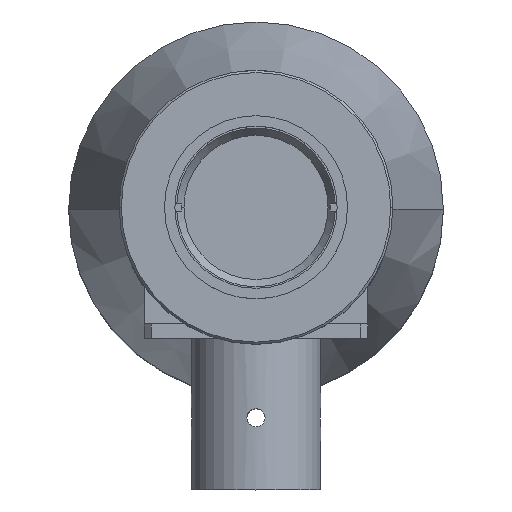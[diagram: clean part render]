
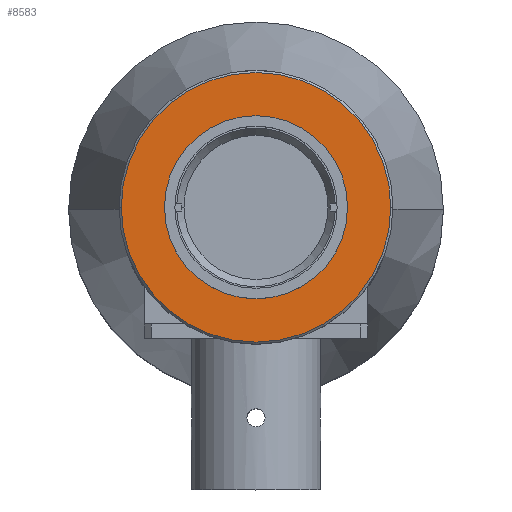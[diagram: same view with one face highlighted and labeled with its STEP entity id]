
A CAD part, top view. The second image highlights one B-rep face of the part: STEP entity #8583.
In plain terms, the highlighted planar face has unit normal (0, 0, 1).
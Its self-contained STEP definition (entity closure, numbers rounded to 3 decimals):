
#200 = CARTESIAN_POINT ( 'NONE',  ( 0., 0., 217.55 ) ) ;
#212 = AXIS2_PLACEMENT_3D ( 'NONE', #10443, #14528, #14653 ) ;
#1873 = VERTEX_POINT ( 'NONE', #9672 ) ;
#2020 = PLANE ( 'NONE',  #13624 ) ;
#2094 = EDGE_CURVE ( 'NONE', #3166, #1873, #7822, .T. ) ;
#2133 = DIRECTION ( 'NONE',  ( 0., 0., 1. ) ) ;
#2189 = CARTESIAN_POINT ( 'NONE',  ( 0., 0., 217.55 ) ) ;
#2508 = ORIENTED_EDGE ( 'NONE', *, *, #16162, .F. ) ;
#3166 = VERTEX_POINT ( 'NONE', #8816 ) ;
#3355 = EDGE_CURVE ( 'NONE', #12149, #10233, #3728, .T. ) ;
#3728 = CIRCLE ( 'NONE', #9374, 12.2 ) ;
#4212 = ORIENTED_EDGE ( 'NONE', *, *, #12743, .T. ) ;
#5308 = AXIS2_PLACEMENT_3D ( 'NONE', #200, #5530, #5659 ) ;
#5530 = DIRECTION ( 'NONE',  ( 0., 0., 1. ) ) ;
#5659 = DIRECTION ( 'NONE',  ( 1., 0., 0. ) ) ;
#6621 = EDGE_LOOP ( 'NONE', ( #8190, #2508 ) ) ;
#7822 = CIRCLE ( 'NONE', #5308, 18.7 ) ;
#7897 = CARTESIAN_POINT ( 'NONE',  ( -12.2, 0., 217.55 ) ) ;
#8187 = CARTESIAN_POINT ( 'NONE',  ( 0., 0., 217.55 ) ) ;
#8190 = ORIENTED_EDGE ( 'NONE', *, *, #3355, .F. ) ;
#8254 = DIRECTION ( 'NONE',  ( 1., 0., 0. ) ) ;
#8583 = ADVANCED_FACE ( 'NONE', ( #15358, #9877 ), #2020, .T. ) ;
#8765 = ORIENTED_EDGE ( 'NONE', *, *, #2094, .T. ) ;
#8816 = CARTESIAN_POINT ( 'NONE',  ( 18.7, 0., 217.55 ) ) ;
#9314 = CIRCLE ( 'NONE', #10356, 18.7 ) ;
#9374 = AXIS2_PLACEMENT_3D ( 'NONE', #17831, #9489, #16423 ) ;
#9489 = DIRECTION ( 'NONE',  ( 0., 0., 1. ) ) ;
#9672 = CARTESIAN_POINT ( 'NONE',  ( -18.7, 0., 217.55 ) ) ;
#9877 = FACE_BOUND ( 'NONE', #6621, .T. ) ;
#10233 = VERTEX_POINT ( 'NONE', #12802 ) ;
#10356 = AXIS2_PLACEMENT_3D ( 'NONE', #8187, #13915, #8254 ) ;
#10443 = CARTESIAN_POINT ( 'NONE',  ( 0., 0., 217.55 ) ) ;
#11168 = EDGE_LOOP ( 'NONE', ( #4212, #8765 ) ) ;
#12149 = VERTEX_POINT ( 'NONE', #7897 ) ;
#12743 = EDGE_CURVE ( 'NONE', #1873, #3166, #9314, .T. ) ;
#12802 = CARTESIAN_POINT ( 'NONE',  ( 12.2, 0., 217.55 ) ) ;
#13578 = DIRECTION ( 'NONE',  ( 1., 0., 0. ) ) ;
#13624 = AXIS2_PLACEMENT_3D ( 'NONE', #2189, #2133, #13578 ) ;
#13915 = DIRECTION ( 'NONE',  ( 0., 0., 1. ) ) ;
#14310 = CIRCLE ( 'NONE', #212, 12.2 ) ;
#14528 = DIRECTION ( 'NONE',  ( 0., 0., 1. ) ) ;
#14653 = DIRECTION ( 'NONE',  ( 1., 0., 0. ) ) ;
#15358 = FACE_OUTER_BOUND ( 'NONE', #11168, .T. ) ;
#16162 = EDGE_CURVE ( 'NONE', #10233, #12149, #14310, .T. ) ;
#16423 = DIRECTION ( 'NONE',  ( 1., 0., 0. ) ) ;
#17831 = CARTESIAN_POINT ( 'NONE',  ( 0., 0., 217.55 ) ) ;
